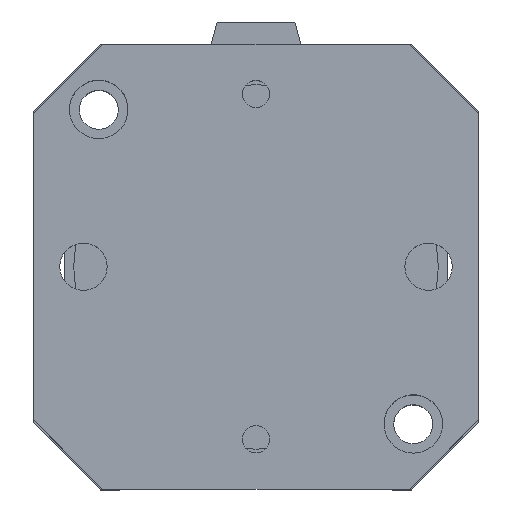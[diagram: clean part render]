
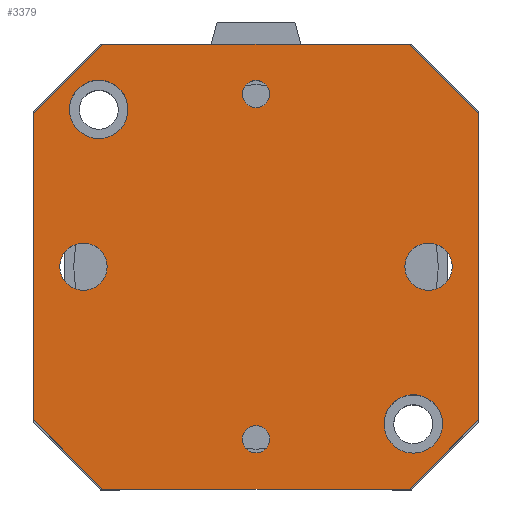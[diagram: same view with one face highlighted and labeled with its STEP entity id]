
A CAD part, top view. The second image highlights one B-rep face of the part: STEP entity #3379.
In plain terms, the highlighted planar face has unit normal (0, 0, 1).
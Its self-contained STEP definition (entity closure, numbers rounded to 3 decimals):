
#265=LINE('',#5630,#519);
#267=LINE('',#5634,#521);
#269=LINE('',#5638,#523);
#271=LINE('',#5642,#525);
#273=LINE('',#5646,#527);
#275=LINE('',#5650,#529);
#277=LINE('',#5654,#531);
#279=LINE('',#5657,#533);
#519=VECTOR('',#4681,55.);
#521=VECTOR('',#4685,17.678);
#523=VECTOR('',#4689,55.);
#525=VECTOR('',#4693,17.678);
#527=VECTOR('',#4697,55.);
#529=VECTOR('',#4701,17.678);
#531=VECTOR('',#4705,55.);
#533=VECTOR('',#4709,17.678);
#627=PLANE('',#3743);
#716=FACE_BOUND('',#1138,.T.);
#717=FACE_BOUND('',#1139,.T.);
#718=FACE_BOUND('',#1140,.T.);
#719=FACE_BOUND('',#1141,.T.);
#720=FACE_BOUND('',#1142,.T.);
#721=FACE_BOUND('',#1143,.T.);
#722=FACE_BOUND('',#1144,.T.);
#1138=EDGE_LOOP('',(#2914));
#1139=EDGE_LOOP('',(#2915));
#1140=EDGE_LOOP('',(#2916));
#1141=EDGE_LOOP('',(#2917));
#1142=EDGE_LOOP('',(#2918));
#1143=EDGE_LOOP('',(#2919));
#1144=EDGE_LOOP('',(#2920,#2921,#2922,#2923,#2924,#2925,#2926,#2927));
#1309=CIRCLE('',#3699,2.459);
#1311=CIRCLE('',#3702,2.459);
#1316=CIRCLE('',#3710,4.25);
#1320=CIRCLE('',#3717,4.25);
#1329=CIRCLE('',#3732,5.25);
#1330=CIRCLE('',#3734,5.25);
#1601=VERTEX_POINT('',#5548);
#1603=VERTEX_POINT('',#5553);
#1608=VERTEX_POINT('',#5566);
#1612=VERTEX_POINT('',#5577);
#1631=VERTEX_POINT('',#5621);
#1632=VERTEX_POINT('',#5624);
#1633=VERTEX_POINT('',#5627);
#1634=VERTEX_POINT('',#5629);
#1635=VERTEX_POINT('',#5633);
#1636=VERTEX_POINT('',#5637);
#1637=VERTEX_POINT('',#5641);
#1638=VERTEX_POINT('',#5645);
#1639=VERTEX_POINT('',#5649);
#1640=VERTEX_POINT('',#5653);
#2025=EDGE_CURVE('',#1601,#1601,#1309,.T.);
#2027=EDGE_CURVE('',#1603,#1603,#1311,.T.);
#2032=EDGE_CURVE('',#1608,#1608,#1316,.T.);
#2036=EDGE_CURVE('',#1612,#1612,#1320,.T.);
#2055=EDGE_CURVE('',#1631,#1631,#1329,.T.);
#2056=EDGE_CURVE('',#1632,#1632,#1330,.T.);
#2058=EDGE_CURVE('',#1634,#1633,#265,.T.);
#2060=EDGE_CURVE('',#1635,#1634,#267,.T.);
#2062=EDGE_CURVE('',#1636,#1635,#269,.T.);
#2064=EDGE_CURVE('',#1637,#1636,#271,.T.);
#2066=EDGE_CURVE('',#1638,#1637,#273,.T.);
#2068=EDGE_CURVE('',#1639,#1638,#275,.T.);
#2070=EDGE_CURVE('',#1640,#1639,#277,.T.);
#2072=EDGE_CURVE('',#1633,#1640,#279,.T.);
#2914=ORIENTED_EDGE('',*,*,#2025,.T.);
#2915=ORIENTED_EDGE('',*,*,#2027,.T.);
#2916=ORIENTED_EDGE('',*,*,#2032,.T.);
#2917=ORIENTED_EDGE('',*,*,#2036,.T.);
#2918=ORIENTED_EDGE('',*,*,#2055,.T.);
#2919=ORIENTED_EDGE('',*,*,#2056,.T.);
#2920=ORIENTED_EDGE('',*,*,#2072,.T.);
#2921=ORIENTED_EDGE('',*,*,#2070,.T.);
#2922=ORIENTED_EDGE('',*,*,#2068,.T.);
#2923=ORIENTED_EDGE('',*,*,#2066,.T.);
#2924=ORIENTED_EDGE('',*,*,#2064,.T.);
#2925=ORIENTED_EDGE('',*,*,#2062,.T.);
#2926=ORIENTED_EDGE('',*,*,#2060,.T.);
#2927=ORIENTED_EDGE('',*,*,#2058,.T.);
#3379=ADVANCED_FACE('',(#716,#717,#718,#719,#720,#721,#722),#627,.T.);
#3699=AXIS2_PLACEMENT_3D('',#5549,#4596,#4597);
#3702=AXIS2_PLACEMENT_3D('',#5554,#4602,#4603);
#3710=AXIS2_PLACEMENT_3D('',#5567,#4618,#4619);
#3717=AXIS2_PLACEMENT_3D('',#5578,#4632,#4633);
#3732=AXIS2_PLACEMENT_3D('',#5622,#4672,#4673);
#3734=AXIS2_PLACEMENT_3D('',#5625,#4676,#4677);
#3743=AXIS2_PLACEMENT_3D('',#5658,#4710,#4711);
#4596=DIRECTION('center_axis',(0.,0.,-1.));
#4597=DIRECTION('ref_axis',(1.,0.,0.));
#4602=DIRECTION('center_axis',(0.,0.,-1.));
#4603=DIRECTION('ref_axis',(1.,0.,0.));
#4618=DIRECTION('center_axis',(0.,0.,-1.));
#4619=DIRECTION('ref_axis',(1.,0.,0.));
#4632=DIRECTION('center_axis',(0.,0.,-1.));
#4633=DIRECTION('ref_axis',(1.,0.,0.));
#4672=DIRECTION('center_axis',(0.,0.,-1.));
#4673=DIRECTION('ref_axis',(-1.,0.,0.));
#4676=DIRECTION('center_axis',(0.,0.,-1.));
#4677=DIRECTION('ref_axis',(-1.,0.,0.));
#4681=DIRECTION('',(0.,1.,0.));
#4685=DIRECTION('',(0.707,0.707,0.));
#4689=DIRECTION('',(1.,0.,0.));
#4693=DIRECTION('',(0.707,-0.707,0.));
#4697=DIRECTION('',(0.,-1.,0.));
#4701=DIRECTION('',(-0.707,-0.707,0.));
#4705=DIRECTION('',(-1.,0.,0.));
#4709=DIRECTION('',(-0.707,0.707,0.));
#4710=DIRECTION('center_axis',(0.,0.,1.));
#4711=DIRECTION('ref_axis',(1.,0.,0.));
#5548=CARTESIAN_POINT('',(-33.459,0.,42.25));
#5549=CARTESIAN_POINT('Origin',(-31.,0.,42.25));
#5553=CARTESIAN_POINT('',(28.542,0.,42.25));
#5554=CARTESIAN_POINT('Origin',(31.,0.,42.25));
#5566=CARTESIAN_POINT('',(-4.25,31.,42.25));
#5567=CARTESIAN_POINT('Origin',(0.,31.,42.25));
#5577=CARTESIAN_POINT('',(-4.25,-31.,42.25));
#5578=CARTESIAN_POINT('Origin',(0.,-31.,42.25));
#5621=CARTESIAN_POINT('',(-23.,-28.25,42.25));
#5622=CARTESIAN_POINT('Origin',(-28.25,-28.25,42.25));
#5624=CARTESIAN_POINT('',(33.5,28.25,42.25));
#5625=CARTESIAN_POINT('Origin',(28.25,28.25,42.25));
#5627=CARTESIAN_POINT('',(40.,27.5,42.25));
#5629=CARTESIAN_POINT('',(40.,-27.5,42.25));
#5630=CARTESIAN_POINT('',(40.,27.5,42.25));
#5633=CARTESIAN_POINT('',(27.5,-40.,42.25));
#5634=CARTESIAN_POINT('',(40.,-27.5,42.25));
#5637=CARTESIAN_POINT('',(-27.5,-40.,42.25));
#5638=CARTESIAN_POINT('',(27.5,-40.,42.25));
#5641=CARTESIAN_POINT('',(-40.,-27.5,42.25));
#5642=CARTESIAN_POINT('',(-27.5,-40.,42.25));
#5645=CARTESIAN_POINT('',(-40.,27.5,42.25));
#5646=CARTESIAN_POINT('',(-40.,-27.5,42.25));
#5649=CARTESIAN_POINT('',(-27.5,40.,42.25));
#5650=CARTESIAN_POINT('',(-40.,27.5,42.25));
#5653=CARTESIAN_POINT('',(27.5,40.,42.25));
#5654=CARTESIAN_POINT('',(-27.5,40.,42.25));
#5657=CARTESIAN_POINT('',(27.5,40.,42.25));
#5658=CARTESIAN_POINT('Origin',(0.,0.,
42.25));
